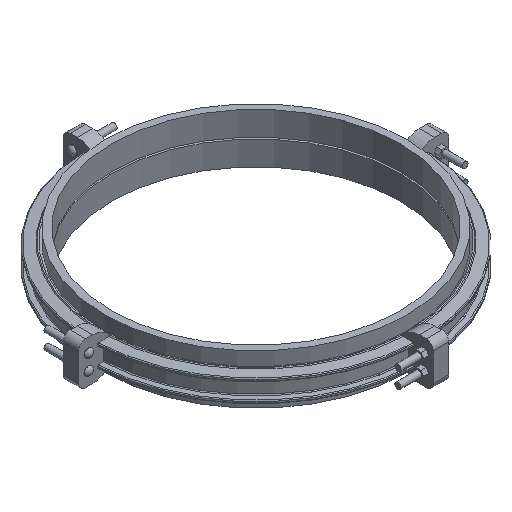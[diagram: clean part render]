
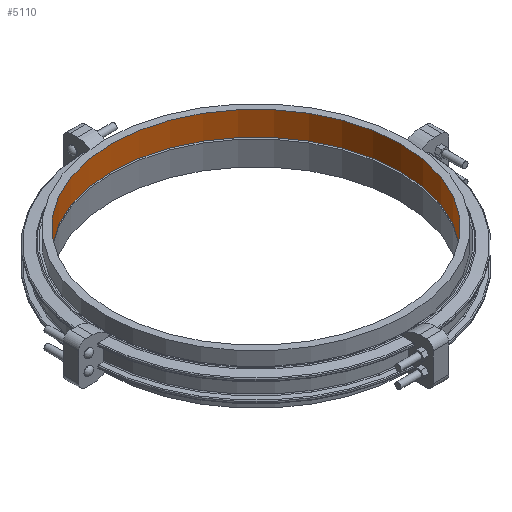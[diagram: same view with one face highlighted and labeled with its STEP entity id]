
A CAD part, isometric view. The second image highlights one B-rep face of the part: STEP entity #5110.
In plain terms, the highlighted cylindrical face has radius 1066.8 mm (diameter 2133.6 mm), a full revolution.
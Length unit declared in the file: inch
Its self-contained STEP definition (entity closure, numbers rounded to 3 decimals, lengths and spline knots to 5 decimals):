
#568=LINE('',#9777,#911);
#911=VECTOR('',#7164,42.);
#1000=CYLINDRICAL_SURFACE('',#5737,42.);
#1282=FACE_OUTER_BOUND('',#1592,.T.);
#1592=EDGE_LOOP('',(#4398,#4399,#4400,#4401,#4402,#4403));
#1847=CIRCLE('',#5735,42.);
#1848=CIRCLE('',#5736,42.);
#1849=CIRCLE('',#5738,42.);
#1850=CIRCLE('',#5739,42.);
#2319=VERTEX_POINT('',#9771);
#2320=VERTEX_POINT('',#9772);
#2321=VERTEX_POINT('',#9776);
#2322=VERTEX_POINT('',#9778);
#3013=EDGE_CURVE('',#2319,#2320,#1847,.T.);
#3014=EDGE_CURVE('',#2320,#2319,#1848,.T.);
#3015=EDGE_CURVE('',#2320,#2321,#568,.T.);
#3016=EDGE_CURVE('',#2322,#2321,#1849,.T.);
#3017=EDGE_CURVE('',#2321,#2322,#1850,.T.);
#4398=ORIENTED_EDGE('',*,*,#3013,.T.);
#4399=ORIENTED_EDGE('',*,*,#3015,.T.);
#4400=ORIENTED_EDGE('',*,*,#3016,.F.);
#4401=ORIENTED_EDGE('',*,*,#3017,.F.);
#4402=ORIENTED_EDGE('',*,*,#3015,.F.);
#4403=ORIENTED_EDGE('',*,*,#3014,.T.);
#5110=ADVANCED_FACE('',(#1282),#1000,.F.);
#5735=AXIS2_PLACEMENT_3D('',#9773,#7158,#7159);
#5736=AXIS2_PLACEMENT_3D('',#9774,#7160,#7161);
#5737=AXIS2_PLACEMENT_3D('',#9775,#7162,#7163);
#5738=AXIS2_PLACEMENT_3D('',#9779,#7165,#7166);
#5739=AXIS2_PLACEMENT_3D('',#9780,#7167,#7168);
#7158=DIRECTION('center_axis',(0.,0.,-1.));
#7159=DIRECTION('ref_axis',(1.,0.,0.));
#7160=DIRECTION('center_axis',(0.,0.,-1.));
#7161=DIRECTION('ref_axis',(1.,0.,0.));
#7162=DIRECTION('center_axis',(0.,0.,-1.));
#7163=DIRECTION('ref_axis',(0.,1.,0.));
#7164=DIRECTION('',(0.,0.,1.));
#7165=DIRECTION('center_axis',(0.,0.,-1.));
#7166=DIRECTION('ref_axis',(1.,0.,0.));
#7167=DIRECTION('center_axis',(0.,0.,-1.));
#7168=DIRECTION('ref_axis',(1.,0.,0.));
#9771=CARTESIAN_POINT('',(0.,42.,0.));
#9772=CARTESIAN_POINT('',(0.,-42.,0.));
#9773=CARTESIAN_POINT('Origin',(0.,0.,0.));
#9774=CARTESIAN_POINT('Origin',(0.,0.,0.));
#9775=CARTESIAN_POINT('Origin',(0.,0.,3.5));
#9776=CARTESIAN_POINT('',(0.,-42.,7.));
#9777=CARTESIAN_POINT('',(0.,-42.,3.5));
#9778=CARTESIAN_POINT('',(0.,42.,7.));
#9779=CARTESIAN_POINT('Origin',(0.,0.,7.));
#9780=CARTESIAN_POINT('Origin',(0.,0.,7.));
